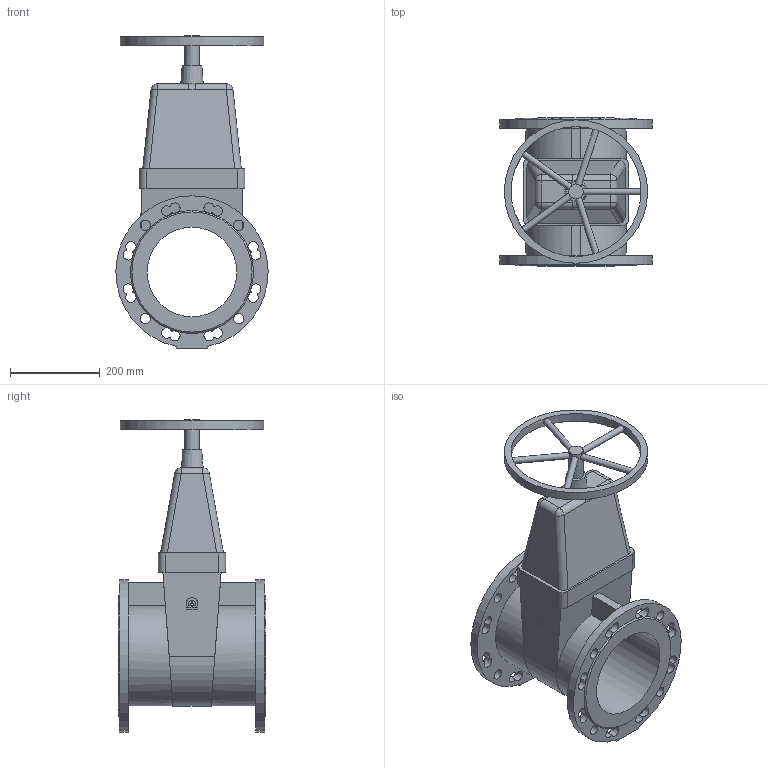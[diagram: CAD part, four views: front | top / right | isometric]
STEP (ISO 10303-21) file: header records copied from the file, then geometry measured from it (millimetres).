
FILE_DESCRIPTION(('STEP AP203'), '1');
FILE_NAME('Çàäâèæêà 47GV DN200 PN10_PN16_L330_W320 ñ ìàõîâèêîì', '', ('UNSPECIFIED'), ('UNSPECIFIED'), 'ASCON STEP Converter 1.6', 'ASCON Math Kernel', '');
FILE_SCHEMA(('CONFIG_CONTROL_DESIGN'));
Length unit declared in the file: millimetre
Bounding box: 339.95 x 330 x 697 mm (x, y, z)
Volume: 13477302.5 mm3; surface area: 1026508.3 mm2
Topology: 1 solids, 1 shells, 162 faces, 486 edges, 307 vertices
Faces by surface type: plane 77, cylinder 76, bspline 6, cone 3
Full cylindrical faces by diameter (mm): 14 x5, 23 x8, 32 x1, 200 x1, 290 x1, 320 x1
Entity records: 10104 total; most frequent: CARTESIAN_POINT 4344, DIRECTION 962, ORIENTED_EDGE 912, EDGE_CURVE 456, AXIS2_PLACEMENT_3D 403, VERTEX_POINT 304, CIRCLE 246, EDGE_LOOP 230
